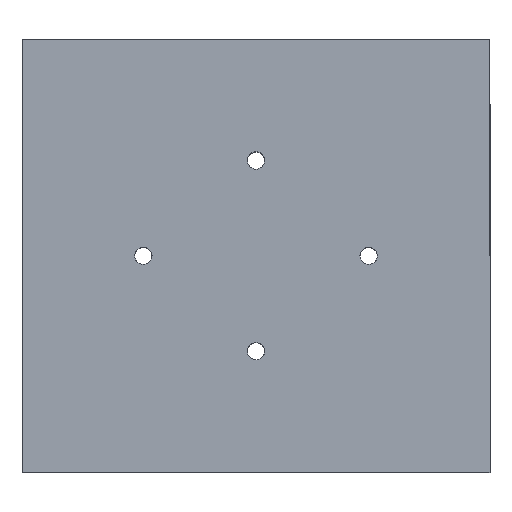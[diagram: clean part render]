
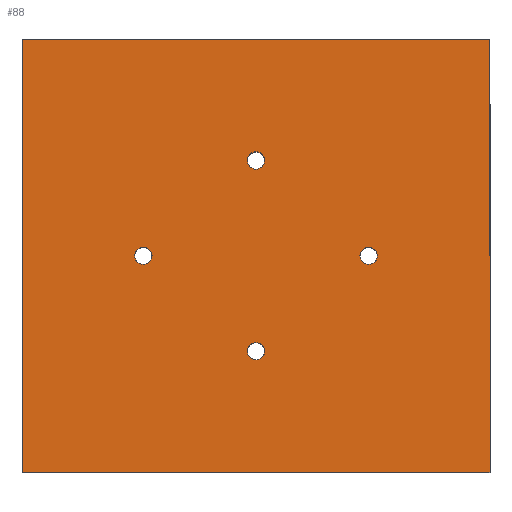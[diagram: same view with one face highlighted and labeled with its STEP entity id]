
A CAD part, top view. The second image highlights one B-rep face of the part: STEP entity #88.
In plain terms, the highlighted planar face has unit normal (0, 0, 1).
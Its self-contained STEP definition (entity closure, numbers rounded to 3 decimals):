
#19 = DIRECTION ( 'NONE',  ( 0., 0., 1. ) ) ;
#30 = FACE_BOUND ( 'NONE', #1956, .T. ) ;
#44 = ORIENTED_EDGE ( 'NONE', *, *, #959, .T. ) ;
#69 = VERTEX_POINT ( 'NONE', #1307 ) ;
#88 = ADVANCED_FACE ( 'NONE', ( #677, #30, #1772, #666, #1979 ), #1959, .T. ) ;
#97 = VERTEX_POINT ( 'NONE', #816 ) ;
#116 = DIRECTION ( 'NONE',  ( 0., 1., 0. ) ) ;
#124 = EDGE_CURVE ( 'NONE', #1623, #1734, #1721, .T. ) ;
#130 = ORIENTED_EDGE ( 'NONE', *, *, #809, .T. ) ;
#161 = DIRECTION ( 'NONE',  ( 1., 0., 0. ) ) ;
#193 = CIRCLE ( 'NONE', #471, 1. ) ;
#229 = AXIS2_PLACEMENT_3D ( 'NONE', #1954, #1440, #783 ) ;
#272 = CARTESIAN_POINT ( 'NONE',  ( 12., 0., 12.5 ) ) ;
#282 = CARTESIAN_POINT ( 'NONE',  ( 1., 11., 12.5 ) ) ;
#350 = ORIENTED_EDGE ( 'NONE', *, *, #1843, .F. ) ;
#355 = ORIENTED_EDGE ( 'NONE', *, *, #711, .F. ) ;
#365 = VERTEX_POINT ( 'NONE', #2045 ) ;
#391 = ORIENTED_EDGE ( 'NONE', *, *, #1553, .T. ) ;
#394 = DIRECTION ( 'NONE',  ( 1., 0., 0. ) ) ;
#395 = DIRECTION ( 'NONE',  ( 0., -1., 0. ) ) ;
#401 = CIRCLE ( 'NONE', #1285, 1. ) ;
#404 = DIRECTION ( 'NONE',  ( 1., 0., 0. ) ) ;
#436 = LINE ( 'NONE', #752, #1106 ) ;
#467 = LINE ( 'NONE', #1105, #538 ) ;
#471 = AXIS2_PLACEMENT_3D ( 'NONE', #561, #1847, #404 ) ;
#503 = VERTEX_POINT ( 'NONE', #1100 ) ;
#538 = VECTOR ( 'NONE', #1760, 1000. ) ;
#561 = CARTESIAN_POINT ( 'NONE',  ( 0., -11., 12.5 ) ) ;
#593 = DIRECTION ( 'NONE',  ( 1., 0., 0. ) ) ;
#611 = CIRCLE ( 'NONE', #1076, 1. ) ;
#656 = CARTESIAN_POINT ( 'NONE',  ( -1., 11., 12.5 ) ) ;
#666 = FACE_BOUND ( 'NONE', #1318, .T. ) ;
#677 = FACE_BOUND ( 'NONE', #1539, .T. ) ;
#701 = AXIS2_PLACEMENT_3D ( 'NONE', #1401, #2052, #593 ) ;
#711 = EDGE_CURVE ( 'NONE', #365, #69, #193, .T. ) ;
#722 = EDGE_CURVE ( 'NONE', #69, #365, #401, .T. ) ;
#744 = CARTESIAN_POINT ( 'NONE',  ( -14., 0., 12.5 ) ) ;
#752 = CARTESIAN_POINT ( 'NONE',  ( 27., 25., 12.5 ) ) ;
#767 = VERTEX_POINT ( 'NONE', #1251 ) ;
#783 = DIRECTION ( 'NONE',  ( 1., 0., 0. ) ) ;
#793 = DIRECTION ( 'NONE',  ( 1., 0., 0. ) ) ;
#809 = EDGE_CURVE ( 'NONE', #1339, #1688, #467, .T. ) ;
#816 = CARTESIAN_POINT ( 'NONE',  ( 14., 0., 12.5 ) ) ;
#824 = DIRECTION ( 'NONE',  ( 0., 0., 1. ) ) ;
#866 = CIRCLE ( 'NONE', #903, 1. ) ;
#894 = CARTESIAN_POINT ( 'NONE',  ( -13., 0., 12.5 ) ) ;
#903 = AXIS2_PLACEMENT_3D ( 'NONE', #1874, #1883, #2032 ) ;
#946 = EDGE_CURVE ( 'NONE', #1825, #1339, #1672, .T. ) ;
#959 = EDGE_CURVE ( 'NONE', #1688, #767, #436, .T. ) ;
#977 = CIRCLE ( 'NONE', #701, 1. ) ;
#984 = CARTESIAN_POINT ( 'NONE',  ( 0., 11., 12.5 ) ) ;
#991 = ORIENTED_EDGE ( 'NONE', *, *, #1017, .F. ) ;
#1016 = EDGE_LOOP ( 'NONE', ( #350, #1101 ) ) ;
#1017 = EDGE_CURVE ( 'NONE', #97, #1670, #866, .T. ) ;
#1038 = VECTOR ( 'NONE', #395, 1000. ) ;
#1072 = AXIS2_PLACEMENT_3D ( 'NONE', #984, #19, #1634 ) ;
#1076 = AXIS2_PLACEMENT_3D ( 'NONE', #894, #1681, #394 ) ;
#1100 = CARTESIAN_POINT ( 'NONE',  ( -12., 0., 12.5 ) ) ;
#1101 = ORIENTED_EDGE ( 'NONE', *, *, #1182, .F. ) ;
#1105 = CARTESIAN_POINT ( 'NONE',  ( -27., -25., 12.5 ) ) ;
#1106 = VECTOR ( 'NONE', #116, 1000. ) ;
#1108 = CIRCLE ( 'NONE', #1785, 1. ) ;
#1182 = EDGE_CURVE ( 'NONE', #1481, #503, #1108, .T. ) ;
#1187 = EDGE_CURVE ( 'NONE', #1734, #1623, #1935, .T. ) ;
#1206 = LINE ( 'NONE', #2036, #1822 ) ;
#1251 = CARTESIAN_POINT ( 'NONE',  ( 27., 25., 12.5 ) ) ;
#1278 = DIRECTION ( 'NONE',  ( 0., 0., 1. ) ) ;
#1285 = AXIS2_PLACEMENT_3D ( 'NONE', #1711, #1567, #2041 ) ;
#1307 = CARTESIAN_POINT ( 'NONE',  ( -1., -11., 12.5 ) ) ;
#1318 = EDGE_LOOP ( 'NONE', ( #355, #1835 ) ) ;
#1339 = VERTEX_POINT ( 'NONE', #1879 ) ;
#1361 = CARTESIAN_POINT ( 'NONE',  ( -27., 25., 12.5 ) ) ;
#1368 = ORIENTED_EDGE ( 'NONE', *, *, #124, .F. ) ;
#1401 = CARTESIAN_POINT ( 'NONE',  ( 13., 0., 12.5 ) ) ;
#1440 = DIRECTION ( 'NONE',  ( 0., 0., 1. ) ) ;
#1474 = CARTESIAN_POINT ( 'NONE',  ( 27., -25., 12.5 ) ) ;
#1481 = VERTEX_POINT ( 'NONE', #744 ) ;
#1483 = CARTESIAN_POINT ( 'NONE',  ( -27., 25., 12.5 ) ) ;
#1539 = EDGE_LOOP ( 'NONE', ( #1368, #2024 ) ) ;
#1540 = DIRECTION ( 'NONE',  ( -1., 0., 0. ) ) ;
#1553 = EDGE_CURVE ( 'NONE', #767, #1825, #1206, .T. ) ;
#1560 = ORIENTED_EDGE ( 'NONE', *, *, #946, .T. ) ;
#1567 = DIRECTION ( 'NONE',  ( 0., 0., 1. ) ) ;
#1602 = CARTESIAN_POINT ( 'NONE',  ( -13., 0., 12.5 ) ) ;
#1615 = CARTESIAN_POINT ( 'NONE',  ( 0., 0., 12.5 ) ) ;
#1623 = VERTEX_POINT ( 'NONE', #282 ) ;
#1634 = DIRECTION ( 'NONE',  ( 1., 0., 0. ) ) ;
#1670 = VERTEX_POINT ( 'NONE', #272 ) ;
#1672 = LINE ( 'NONE', #1361, #1038 ) ;
#1681 = DIRECTION ( 'NONE',  ( 0., 0., 1. ) ) ;
#1688 = VERTEX_POINT ( 'NONE', #1474 ) ;
#1711 = CARTESIAN_POINT ( 'NONE',  ( 0., -11., 12.5 ) ) ;
#1721 = CIRCLE ( 'NONE', #1072, 1. ) ;
#1734 = VERTEX_POINT ( 'NONE', #656 ) ;
#1760 = DIRECTION ( 'NONE',  ( 1., 0., 0. ) ) ;
#1772 = FACE_BOUND ( 'NONE', #1016, .T. ) ;
#1785 = AXIS2_PLACEMENT_3D ( 'NONE', #1602, #1278, #793 ) ;
#1822 = VECTOR ( 'NONE', #1540, 1000. ) ;
#1825 = VERTEX_POINT ( 'NONE', #1483 ) ;
#1835 = ORIENTED_EDGE ( 'NONE', *, *, #722, .F. ) ;
#1843 = EDGE_CURVE ( 'NONE', #503, #1481, #611, .T. ) ;
#1847 = DIRECTION ( 'NONE',  ( 0., 0., 1. ) ) ;
#1874 = CARTESIAN_POINT ( 'NONE',  ( 13., 0., 12.5 ) ) ;
#1876 = EDGE_LOOP ( 'NONE', ( #44, #391, #1560, #130 ) ) ;
#1879 = CARTESIAN_POINT ( 'NONE',  ( -27., -25., 12.5 ) ) ;
#1883 = DIRECTION ( 'NONE',  ( 0., 0., 1. ) ) ;
#1935 = CIRCLE ( 'NONE', #229, 1. ) ;
#1954 = CARTESIAN_POINT ( 'NONE',  ( 0., 11., 12.5 ) ) ;
#1956 = EDGE_LOOP ( 'NONE', ( #991, #2021 ) ) ;
#1959 = PLANE ( 'NONE',  #1996 ) ;
#1979 = FACE_OUTER_BOUND ( 'NONE', #1876, .T. ) ;
#1996 = AXIS2_PLACEMENT_3D ( 'NONE', #1615, #824, #161 ) ;
#2021 = ORIENTED_EDGE ( 'NONE', *, *, #2078, .F. ) ;
#2024 = ORIENTED_EDGE ( 'NONE', *, *, #1187, .F. ) ;
#2032 = DIRECTION ( 'NONE',  ( 1., 0., 0. ) ) ;
#2036 = CARTESIAN_POINT ( 'NONE',  ( -27., 25., 12.5 ) ) ;
#2041 = DIRECTION ( 'NONE',  ( 1., 0., 0. ) ) ;
#2045 = CARTESIAN_POINT ( 'NONE',  ( 1., -11., 12.5 ) ) ;
#2052 = DIRECTION ( 'NONE',  ( 0., 0., 1. ) ) ;
#2078 = EDGE_CURVE ( 'NONE', #1670, #97, #977, .T. ) ;
